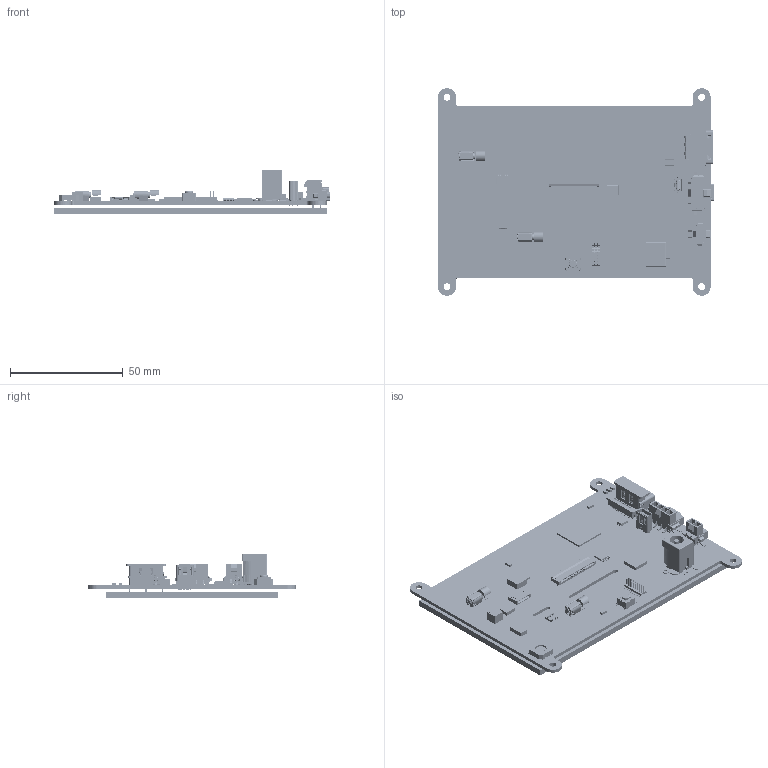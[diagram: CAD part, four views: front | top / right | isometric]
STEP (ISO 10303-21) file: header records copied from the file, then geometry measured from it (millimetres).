
FILE_DESCRIPTION (( 'STEP AP214' ), '1' );
FILE_NAME ('HTT50A Vert. Mount TPN R3.0.2.STEP', '2021-08-24T16:09:56', ( '' ), ( '' ), 'SwSTEP 2.0', 'SolidWorks 2018', '' );
FILE_SCHEMA (( 'AUTOMOTIVE_DESIGN' ));
Length unit declared in the file: millimetre
Products named in the file (4): MOPTFT800480-50; HTT50x VERT; HTT50A Vert. Mount TPN R3.0.2; HTT50x R3.0.2 Parts_only
Assembly tree (3 placements, depth 2):
  HTT50A Vert. Mount TPN R3.0.2
    HTT50x VERT
    HTT50x R3.0.2 Parts_only
    MOPTFT800480-50
Bounding box: 122.2 x 91.8 x 19.91 mm (x, y, z)
Volume: 39541.5 mm3; surface area: 71248.4 mm2
Topology: 2 solids, 167 shells, 13169 faces, 36785 edges, 23769 vertices
Faces by surface type: plane 9369, cylinder 2464, bspline 1258, cone 38, sphere 30, torus 10
Entity records: 571150 total; most frequent: CARTESIAN_POINT 94579, ORIENTED_EDGE 73444, DIRECTION 61752, EDGE_CURVE 36761, VECTOR 28124, LINE 28124, VERTEX_POINT 23761, AXIS2_PLACEMENT_3D 16814
